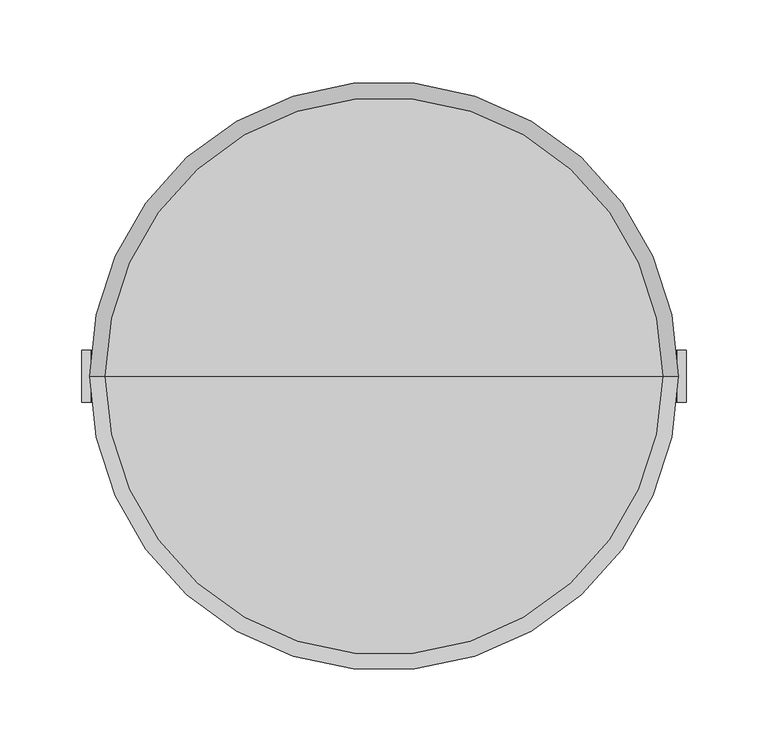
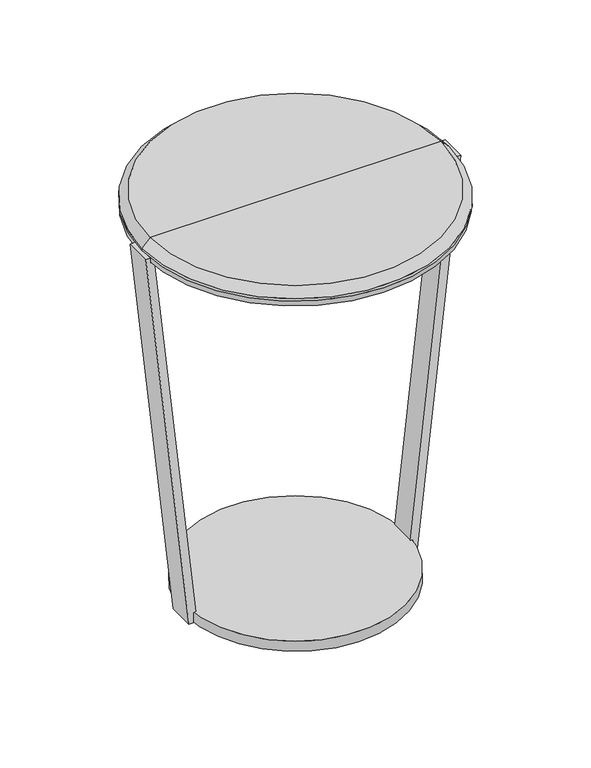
"""IFC4 building model written with IfcOpenShell, lengths in millimetres: furniture geometry, Table_Bensen_Around_ARD001 : Table_Bensen_Around_ARD001."""

from ifc_helpers import new_model, si_unit, point, frame, origin, origin_with_axes, origin_2d, place, context, project, spatial, polyline, circle_curve, trimmed, segment, composite_curve, outline, extrude, source, transform, mapped, element, save
from ifc_brep_helpers import plane_surface, cylinder_surface, revolved_surface, advanced_brep


def furniture_19742f42(model_context):
    return source(origin(), model_context, "Body", "SolidModel", [
        advanced_brep(
        [(170.3247145, 0.0, 482.7107719), (-170.3247145, 0.0, 482.7107719), (0.0, 0.0, 482.7107719), (180.024714, 0.0, 473.0107724), (-180.024714, 0.0, 473.0107724), (180.024714, 0.0, 470.0107413), (-180.024714, 0.0, 470.0107413), (0.0, 0.0, 470.0107413)],
        [
            (0, 1, circle_curve(frame((0.0, 0.0, 482.7107719), z_axis=(0.0, 0.0, 1.0), x_axis=(-1.0, 0.0, 0.0)), 170.3247145)),
            (1, 2),
            (2, 0),
            (1, 0, circle_curve(frame((0.0, 0.0, 482.7107719), z_axis=(0.0, 0.0, 1.0), x_axis=(-1.0, 0.0, 0.0)), 170.3247145)),
            (3, 4, circle_curve(frame((0.0, 0.0, 473.0107724), z_axis=(0.0, 0.0, 1.0), x_axis=(-1.0, 0.0, 0.0)), 180.024714)),
            (4, 1),
            (0, 3),
            (4, 3, circle_curve(frame((0.0, 0.0, 473.0107724), z_axis=(0.0, 0.0, 1.0), x_axis=(-1.0, 0.0, 0.0)), 180.024714)),
            (5, 6, circle_curve(frame((0.0, 0.0, 470.0107413), z_axis=(0.0, 0.0, 1.0), x_axis=(-1.0, 0.0, 0.0)), 180.024714)),
            (6, 4),
            (3, 5),
            (6, 5, circle_curve(frame((0.0, 0.0, 470.0107413), z_axis=(0.0, 0.0, 1.0), x_axis=(-1.0, 0.0, 0.0)), 180.024714)),
            (7, 6),
            (5, 7),
        ],
        [
            plane_surface(frame((0.0, 0.0, 482.7107719), z_axis=(0.0, 0.0, 1.0), x_axis=(-1.0, 0.0, 0.0))),
            revolved_surface(polyline([(-170.3247145, 0.0, 482.7107719), (-180.024714, 0.0, 473.0107724)]), (0.0, 0.0, 527.7107719), (0.0, 0.0, -1.0)),
            cylinder_surface(frame((0.0, 0.0, 527.7107719), z_axis=(0.0, 0.0, -1.0), x_axis=(-1.0, 0.0, 0.0)), 180.024714),
            plane_surface(frame((0.0, 0.0, 470.0107413), z_axis=(0.0, 0.0, -1.0), x_axis=(-1.0, 0.0, 0.0))),
        ],
        [
            (0, [[1, 2, 3]]),
            (0, [[4, -3, -2]]),
            (1, [[5, 6, -1, 7]]),
            (1, [[8, -7, -4, -6]]),
            (2, [[9, 10, -5, 11]]),
            (2, [[12, -11, -8, -10]]),
            (3, [[13, -9, 14]]),
            (3, [[-14, -12, -13]]),
        ],
    ),
        extrude(outline(composite_curve([segment(trimmed(circle_curve(origin_2d(), 179.3242089), [point((-179.3242089, 0.0))], [point((179.3242089, 0.0))], False, "CARTESIAN"), True, "CONTINUOUS"), segment(trimmed(circle_curve(origin_2d(), 179.3242089), [point((179.3242089, 0.0))], [point((-179.3242089, 0.0))], False, "CARTESIAN"), True, "CONTINUOUS")], self_intersect=False)), frame((0.0, 0.0, 463.6625361), z_axis=(0.0, 0.0, 1.0), x_axis=(1.0, 0.0, 0.0)), (0.0, 0.0, 1.0), 6.3482052),
        extrude(outline(composite_curve([segment(trimmed(circle_curve(origin_2d(), 129.0231686), [point((-129.0231686, 0.0))], [point((129.0231686, 0.0))], False, "CARTESIAN"), True, "CONTINUOUS"), segment(trimmed(circle_curve(origin_2d(), 129.0231686), [point((129.0231686, 0.0))], [point((-129.0231686, 0.0))], False, "CARTESIAN"), True, "CONTINUOUS")], self_intersect=False)), origin_with_axes(), (0.0, 0.0, 1.0), 12.696825),
        extrude(outline(polyline([(463.6625361, -179.3242089), (470.010739, -179.3242089), (470.010739, -184.80136), (0.0, -134.1308736), (0.0, -129.0231686), (12.696825, -129.0231686), (12.696825, -125.9185597), (463.6625361, -174.5358572), (463.6625361, -179.3242089)])), frame((0.0, -15.8707667, 0.0), z_axis=(0.0, 1.0, 0.0), x_axis=(0.0, 0.0, 1.0)), (0.0, 0.0, 1.0), 31.7415333),
        extrude(outline(polyline([(463.6625361, 179.3242089), (463.6625361, 174.5358572), (12.696825, 125.9185597), (12.696825, 129.0231686), (0.0, 129.0231686), (0.0, 134.1308736), (470.010739, 184.80136), (470.010739, 179.3242089), (463.6625361, 179.3242089)])), frame((0.0, -15.8707667, 0.0), z_axis=(0.0, 1.0, 0.0), x_axis=(0.0, 0.0, 1.0)), (0.0, 0.0, 1.0), 31.7415333),
    ])


if __name__ == "__main__":
    model = new_model("IFC4")
    model_context = context("Model", 3, world=origin())
    ifc_project = project(units=[si_unit("LENGTHUNIT", "METRE", prefix="MILLI")], contexts=[model_context])
    site = spatial("IfcSite", under=ifc_project)
    building = spatial("IfcBuilding", under=site)
    placement = place(None, origin())
    furniture_shape = furniture_19742f42(model_context)
    element("IfcFurniture", 1, ObjectType="Table_Bensen_Around_ARD001 : Table_Bensen_Around_ARD001", at=placement, inside=building, context=model_context, shape_type="MappedRepresentation", body=[
        mapped(furniture_shape, transform((0.0, 0.0, 0.0), x_axis=(1.0, 0.0, 0.0), y_axis=(0.0, 1.0, 0.0), z_axis=(0.0, 0.0, 1.0))),
    ])
    save(model, "model.ifc")
